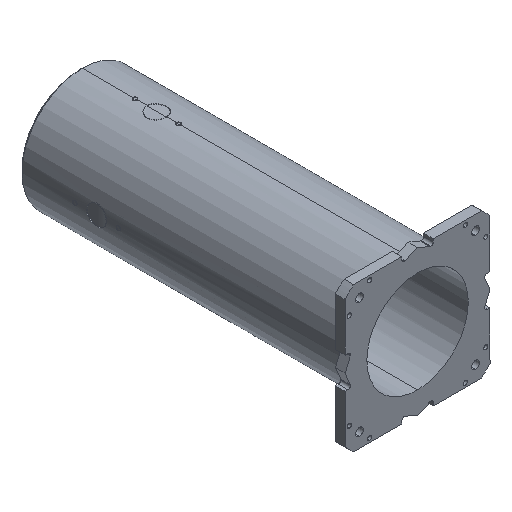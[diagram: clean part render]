
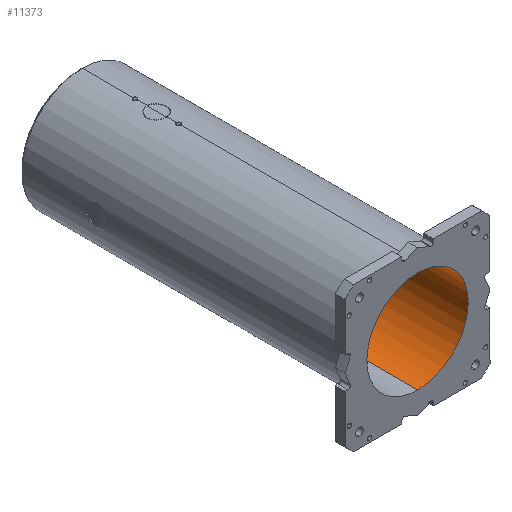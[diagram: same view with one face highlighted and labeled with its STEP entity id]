
A CAD part, isometric view. The second image highlights one B-rep face of the part: STEP entity #11373.
In plain terms, the highlighted cylindrical face has radius 105 mm (diameter 210 mm), a partial arc.
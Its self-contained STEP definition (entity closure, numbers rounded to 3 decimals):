
#4 = VERTEX_POINT ( 'NONE', #4988 ) ;
#260 = VERTEX_POINT ( 'NONE', #4533 ) ;
#626 = DIRECTION ( 'NONE',  ( 0., 1., 0. ) ) ;
#669 = CIRCLE ( 'NONE', #13091, 105. ) ;
#1104 = CARTESIAN_POINT ( 'NONE',  ( 0., 682., 0. ) ) ;
#1314 = ORIENTED_EDGE ( 'NONE', *, *, #12148, .T. ) ;
#1494 = FACE_OUTER_BOUND ( 'NONE', #11669, .T. ) ;
#1549 = ORIENTED_EDGE ( 'NONE', *, *, #12245, .T. ) ;
#1645 = VERTEX_POINT ( 'NONE', #2199 ) ;
#1760 = CARTESIAN_POINT ( 'NONE',  ( 63.2, 682., 83.85 ) ) ;
#1845 = CARTESIAN_POINT ( 'NONE',  ( 0., 682., 0. ) ) ;
#2011 = VECTOR ( 'NONE', #4496, 1000. ) ;
#2029 = CIRCLE ( 'NONE', #4429, 105. ) ;
#2199 = CARTESIAN_POINT ( 'NONE',  ( 76.483, 682., -71.94 ) ) ;
#2400 = CARTESIAN_POINT ( 'NONE',  ( 0., 0., 105. ) ) ;
#2460 = LINE ( 'NONE', #3543, #13346 ) ;
#2706 = CARTESIAN_POINT ( 'NONE',  ( 0., 682., 0. ) ) ;
#3053 = CARTESIAN_POINT ( 'NONE',  ( 0., 0., 0. ) ) ;
#3091 = EDGE_CURVE ( 'NONE', #260, #11339, #2460, .T. ) ;
#3216 = DIRECTION ( 'NONE',  ( 0., 0., 1. ) ) ;
#3289 = AXIS2_PLACEMENT_3D ( 'NONE', #8076, #14263, #15647 ) ;
#3543 = CARTESIAN_POINT ( 'NONE',  ( 0., 0., -105. ) ) ;
#3814 = CARTESIAN_POINT ( 'NONE',  ( 0., 682., -105. ) ) ;
#4150 = DIRECTION ( 'NONE',  ( 0., 0., 1. ) ) ;
#4429 = AXIS2_PLACEMENT_3D ( 'NONE', #8885, #5277, #6492 ) ;
#4496 = DIRECTION ( 'NONE',  ( 0., 1., 0. ) ) ;
#4533 = CARTESIAN_POINT ( 'NONE',  ( 0., 0., -105. ) ) ;
#4559 = EDGE_CURVE ( 'NONE', #7669, #4646, #10681, .T. ) ;
#4631 = CIRCLE ( 'NONE', #3289, 105. ) ;
#4646 = VERTEX_POINT ( 'NONE', #8659 ) ;
#4911 = CIRCLE ( 'NONE', #13053, 105. ) ;
#4965 = ORIENTED_EDGE ( 'NONE', *, *, #5273, .T. ) ;
#4988 = CARTESIAN_POINT ( 'NONE',  ( 76.483, 682., 71.94 ) ) ;
#5156 = EDGE_CURVE ( 'NONE', #13875, #14352, #7762, .T. ) ;
#5273 = EDGE_CURVE ( 'NONE', #1645, #7520, #6978, .T. ) ;
#5277 = DIRECTION ( 'NONE',  ( 0., 1., 0. ) ) ;
#5569 = LINE ( 'NONE', #9695, #2011 ) ;
#5664 = AXIS2_PLACEMENT_3D ( 'NONE', #6528, #15346, #4150 ) ;
#5734 = DIRECTION ( 'NONE',  ( 0., 0., 1. ) ) ;
#5954 = DIRECTION ( 'NONE',  ( 0., 1., 0. ) ) ;
#6192 = AXIS2_PLACEMENT_3D ( 'NONE', #1845, #6886, #5734 ) ;
#6251 = AXIS2_PLACEMENT_3D ( 'NONE', #3053, #8329, #3216 ) ;
#6492 = DIRECTION ( 'NONE',  ( 0., 0., 1. ) ) ;
#6528 = CARTESIAN_POINT ( 'NONE',  ( 0., 0., 0. ) ) ;
#6886 = DIRECTION ( 'NONE',  ( 0., 1., 0. ) ) ;
#6978 = CIRCLE ( 'NONE', #8029, 105. ) ;
#7053 = CARTESIAN_POINT ( 'NONE',  ( 69.052, 682., 79.1 ) ) ;
#7169 = DIRECTION ( 'NONE',  ( 0., 0., 1. ) ) ;
#7188 = CARTESIAN_POINT ( 'NONE',  ( 65.645, 682., 81.95 ) ) ;
#7520 = VERTEX_POINT ( 'NONE', #11334 ) ;
#7640 = CARTESIAN_POINT ( 'NONE',  ( 0., 682., 105. ) ) ;
#7669 = VERTEX_POINT ( 'NONE', #7053 ) ;
#7670 = DIRECTION ( 'NONE',  ( 0., 1., 0. ) ) ;
#7678 = CYLINDRICAL_SURFACE ( 'NONE', #5664, 105. ) ;
#7708 = EDGE_CURVE ( 'NONE', #4, #1645, #669, .T. ) ;
#7762 = CIRCLE ( 'NONE', #6192, 105. ) ;
#7957 = CIRCLE ( 'NONE', #10597, 105. ) ;
#8029 = AXIS2_PLACEMENT_3D ( 'NONE', #1104, #11085, #12164 ) ;
#8076 = CARTESIAN_POINT ( 'NONE',  ( 0., 682., 0. ) ) ;
#8111 = AXIS2_PLACEMENT_3D ( 'NONE', #2706, #7670, #12954 ) ;
#8287 = ORIENTED_EDGE ( 'NONE', *, *, #8750, .T. ) ;
#8329 = DIRECTION ( 'NONE',  ( 0., 1., 0. ) ) ;
#8407 = DIRECTION ( 'NONE',  ( 0., 1., 0. ) ) ;
#8540 = ORIENTED_EDGE ( 'NONE', *, *, #5156, .T. ) ;
#8659 = CARTESIAN_POINT ( 'NONE',  ( 71.94, 682., 76.483 ) ) ;
#8750 = EDGE_CURVE ( 'NONE', #14270, #12532, #5569, .T. ) ;
#8765 = ORIENTED_EDGE ( 'NONE', *, *, #7708, .T. ) ;
#8885 = CARTESIAN_POINT ( 'NONE',  ( 0., 682., 0. ) ) ;
#9135 = EDGE_CURVE ( 'NONE', #14270, #260, #12821, .T. ) ;
#9389 = DIRECTION ( 'NONE',  ( 0., 0., 1. ) ) ;
#9485 = DIRECTION ( 'NONE',  ( 0., 0., 1. ) ) ;
#9594 = ORIENTED_EDGE ( 'NONE', *, *, #3091, .F. ) ;
#9681 = EDGE_CURVE ( 'NONE', #12532, #15402, #2029, .T. ) ;
#9695 = CARTESIAN_POINT ( 'NONE',  ( 0., 0., 105. ) ) ;
#9897 = AXIS2_PLACEMENT_3D ( 'NONE', #14751, #8407, #7169 ) ;
#10188 = EDGE_CURVE ( 'NONE', #4646, #4, #15214, .T. ) ;
#10413 = ORIENTED_EDGE ( 'NONE', *, *, #10188, .T. ) ;
#10597 = AXIS2_PLACEMENT_3D ( 'NONE', #11341, #13914, #12657 ) ;
#10681 = CIRCLE ( 'NONE', #9897, 105. ) ;
#11085 = DIRECTION ( 'NONE',  ( 0., 1., 0. ) ) ;
#11334 = CARTESIAN_POINT ( 'NONE',  ( 71.94, 682., -76.483 ) ) ;
#11339 = VERTEX_POINT ( 'NONE', #3814 ) ;
#11341 = CARTESIAN_POINT ( 'NONE',  ( 0., 682., 0. ) ) ;
#11373 = ADVANCED_FACE ( 'NONE', ( #1494 ), #7678, .F. ) ;
#11669 = EDGE_LOOP ( 'NONE', ( #9594, #12353, #8287, #15114, #1549, #8540, #12108, #12716, #10413, #8765, #4965, #1314 ) ) ;
#12108 = ORIENTED_EDGE ( 'NONE', *, *, #13008, .T. ) ;
#12148 = EDGE_CURVE ( 'NONE', #7520, #11339, #4631, .T. ) ;
#12164 = DIRECTION ( 'NONE',  ( 0., 0., 1. ) ) ;
#12245 = EDGE_CURVE ( 'NONE', #15402, #13875, #4911, .T. ) ;
#12353 = ORIENTED_EDGE ( 'NONE', *, *, #9135, .F. ) ;
#12532 = VERTEX_POINT ( 'NONE', #7640 ) ;
#12657 = DIRECTION ( 'NONE',  ( 0., 0., 1. ) ) ;
#12716 = ORIENTED_EDGE ( 'NONE', *, *, #4559, .T. ) ;
#12821 = CIRCLE ( 'NONE', #6251, 105. ) ;
#12954 = DIRECTION ( 'NONE',  ( 0., 0., 1. ) ) ;
#13008 = EDGE_CURVE ( 'NONE', #14352, #7669, #7957, .T. ) ;
#13053 = AXIS2_PLACEMENT_3D ( 'NONE', #15727, #14421, #9485 ) ;
#13091 = AXIS2_PLACEMENT_3D ( 'NONE', #13167, #626, #9389 ) ;
#13167 = CARTESIAN_POINT ( 'NONE',  ( 0., 682., 0. ) ) ;
#13173 = CARTESIAN_POINT ( 'NONE',  ( 57.845, 682., 87.63 ) ) ;
#13346 = VECTOR ( 'NONE', #5954, 1000. ) ;
#13875 = VERTEX_POINT ( 'NONE', #1760 ) ;
#13914 = DIRECTION ( 'NONE',  ( 0., 1., 0. ) ) ;
#14263 = DIRECTION ( 'NONE',  ( 0., 1., 0. ) ) ;
#14270 = VERTEX_POINT ( 'NONE', #2400 ) ;
#14352 = VERTEX_POINT ( 'NONE', #7188 ) ;
#14421 = DIRECTION ( 'NONE',  ( 0., 1., 0. ) ) ;
#14751 = CARTESIAN_POINT ( 'NONE',  ( 0., 682., 0. ) ) ;
#15114 = ORIENTED_EDGE ( 'NONE', *, *, #9681, .T. ) ;
#15214 = CIRCLE ( 'NONE', #8111, 105. ) ;
#15346 = DIRECTION ( 'NONE',  ( 0., 1., 0. ) ) ;
#15402 = VERTEX_POINT ( 'NONE', #13173 ) ;
#15647 = DIRECTION ( 'NONE',  ( 0., 0., 1. ) ) ;
#15727 = CARTESIAN_POINT ( 'NONE',  ( 0., 682., 0. ) ) ;
